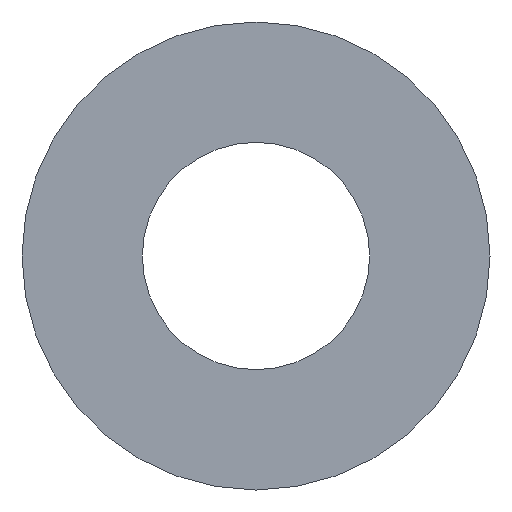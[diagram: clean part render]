
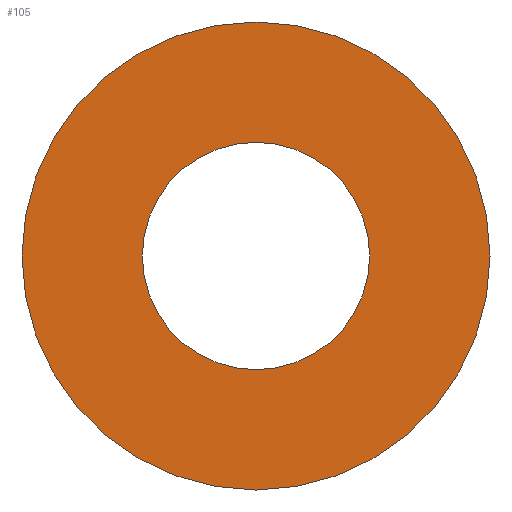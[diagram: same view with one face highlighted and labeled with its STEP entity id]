
A CAD part, left-side view. The second image highlights one B-rep face of the part: STEP entity #105.
In plain terms, the highlighted planar face has unit normal (-1, 0, 0).
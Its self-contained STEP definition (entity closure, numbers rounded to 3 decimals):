
#22 = VERTEX_POINT('',#23);
#23 = CARTESIAN_POINT('',(32.5,86.7,-289.));
#32 = CYLINDRICAL_SURFACE('',#33,3.5);
#33 = AXIS2_PLACEMENT_3D('',#34,#35,#36);
#34 = CARTESIAN_POINT('',(32.5,90.2,-289.));
#35 = DIRECTION('',(-1.,-0.,-0.));
#36 = DIRECTION('',(0.,-1.,0.));
#79 = EDGE_CURVE('',#22,#22,#80,.T.);
#80 = SURFACE_CURVE('',#81,(#86,#93),.PCURVE_S1.);
#81 = CIRCLE('',#82,3.5);
#82 = AXIS2_PLACEMENT_3D('',#83,#84,#85);
#83 = CARTESIAN_POINT('',(32.5,90.2,-289.));
#84 = DIRECTION('',(1.,0.,0.));
#85 = DIRECTION('',(0.,-1.,0.));
#86 = PCURVE('',#32,#87);
#87 = DEFINITIONAL_REPRESENTATION('',(#88),#92);
#88 = LINE('',#89,#90);
#89 = CARTESIAN_POINT('',(-0.,0.));
#90 = VECTOR('',#91,1.);
#91 = DIRECTION('',(-1.,0.));
#92 = ( GEOMETRIC_REPRESENTATION_CONTEXT(2) 
PARAMETRIC_REPRESENTATION_CONTEXT() REPRESENTATION_CONTEXT('2D SPACE',''
  ) );
#93 = PCURVE('',#94,#99);
#94 = PLANE('',#95);
#95 = AXIS2_PLACEMENT_3D('',#96,#97,#98);
#96 = CARTESIAN_POINT('',(32.5,90.2,-289.));
#97 = DIRECTION('',(1.,0.,0.));
#98 = DIRECTION('',(-0.,0.,1.));
#99 = DEFINITIONAL_REPRESENTATION('',(#100),#104);
#100 = CIRCLE('',#101,3.5);
#101 = AXIS2_PLACEMENT_2D('',#102,#103);
#102 = CARTESIAN_POINT('',(0.,0.));
#103 = DIRECTION('',(0.,1.));
#104 = ( GEOMETRIC_REPRESENTATION_CONTEXT(2) 
PARAMETRIC_REPRESENTATION_CONTEXT() REPRESENTATION_CONTEXT('2D SPACE',''
  ) );
#105 = ADVANCED_FACE('',(#106,#109),#94,.F.);
#106 = FACE_BOUND('',#107,.F.);
#107 = EDGE_LOOP('',(#108));
#108 = ORIENTED_EDGE('',*,*,#79,.T.);
#109 = FACE_BOUND('',#110,.F.);
#110 = EDGE_LOOP('',(#111));
#111 = ORIENTED_EDGE('',*,*,#112,.T.);
#112 = EDGE_CURVE('',#113,#113,#115,.T.);
#113 = VERTEX_POINT('',#114);
#114 = CARTESIAN_POINT('',(32.5,88.5,-289.));
#115 = SURFACE_CURVE('',#116,(#121,#132),.PCURVE_S1.);
#116 = CIRCLE('',#117,1.7);
#117 = AXIS2_PLACEMENT_3D('',#118,#119,#120);
#118 = CARTESIAN_POINT('',(32.5,90.2,-289.));
#119 = DIRECTION('',(-1.,-0.,0.));
#120 = DIRECTION('',(0.,-1.,0.));
#121 = PCURVE('',#94,#122);
#122 = DEFINITIONAL_REPRESENTATION('',(#123),#131);
#123 = ( BOUNDED_CURVE() B_SPLINE_CURVE(2,(#124,#125,#126,#127,#128,#129
,#130),.UNSPECIFIED.,.T.,.F.) B_SPLINE_CURVE_WITH_KNOTS((1,2,2,2,2,1),(
    -2.094,0.,2.094,4.189,6.283,
8.378),.UNSPECIFIED.) CURVE() GEOMETRIC_REPRESENTATION_ITEM() 
RATIONAL_B_SPLINE_CURVE((1.,0.5,1.,0.5,1.,0.5,1.)) REPRESENTATION_ITEM(
  '') );
#124 = CARTESIAN_POINT('',(0.,1.7));
#125 = CARTESIAN_POINT('',(2.944,1.7));
#126 = CARTESIAN_POINT('',(1.472,-0.85));
#127 = CARTESIAN_POINT('',(0.,-3.4));
#128 = CARTESIAN_POINT('',(-1.472,-0.85));
#129 = CARTESIAN_POINT('',(-2.944,1.7));
#130 = CARTESIAN_POINT('',(0.,1.7));
#131 = ( GEOMETRIC_REPRESENTATION_CONTEXT(2) 
PARAMETRIC_REPRESENTATION_CONTEXT() REPRESENTATION_CONTEXT('2D SPACE',''
  ) );
#132 = PCURVE('',#133,#138);
#133 = CYLINDRICAL_SURFACE('',#134,1.7);
#134 = AXIS2_PLACEMENT_3D('',#135,#136,#137);
#135 = CARTESIAN_POINT('',(0.,90.2,-289.));
#136 = DIRECTION('',(-1.,-0.,-0.));
#137 = DIRECTION('',(0.,-1.,0.));
#138 = DEFINITIONAL_REPRESENTATION('',(#139),#143);
#139 = LINE('',#140,#141);
#140 = CARTESIAN_POINT('',(-6.283,-32.5));
#141 = VECTOR('',#142,1.);
#142 = DIRECTION('',(1.,-0.));
#143 = ( GEOMETRIC_REPRESENTATION_CONTEXT(2) 
PARAMETRIC_REPRESENTATION_CONTEXT() REPRESENTATION_CONTEXT('2D SPACE',''
  ) );
